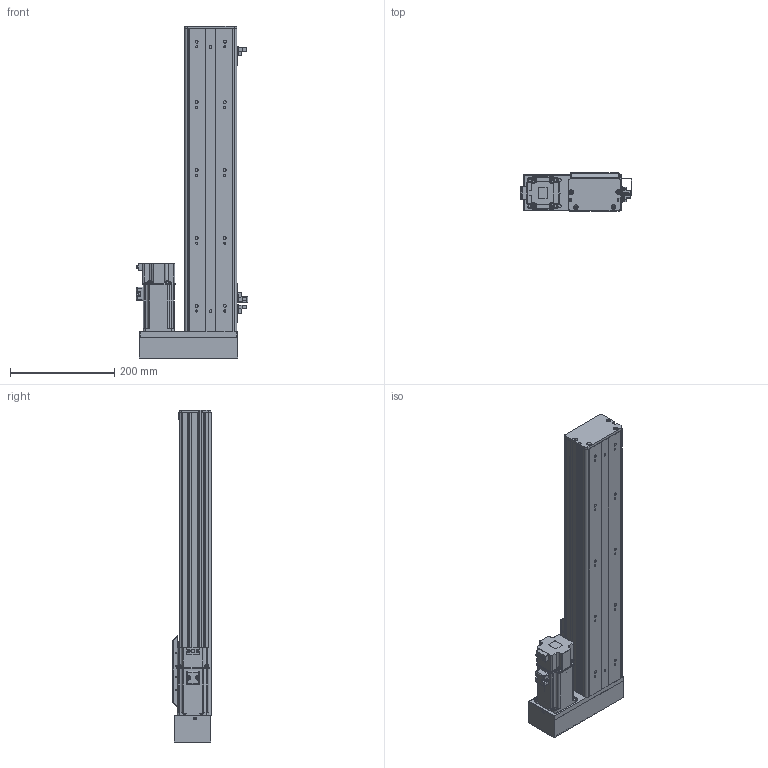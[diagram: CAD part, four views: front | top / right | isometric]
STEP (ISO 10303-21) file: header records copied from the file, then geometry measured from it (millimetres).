
FILE_DESCRIPTION (( 'STEP AP203' ), '1' );
FILE_NAME ('BOSW100-400-1610-1P-RM-M400W-O-S3（方程式2016）.step', '2020-10-10T07:16:52', ( '' ), ( '' ), 'SwSTEP 2.0', 'SolidWorks 2016', '' );
FILE_SCHEMA (( 'CONFIG_CONTROL_DESIGN' ));
Length unit declared in the file: millimetre
Products named in the file (14): BOSW-100-綴裔啣; S400W(SMA-L040); BOSW-100-1P-DM-400諦誧芞; 俋境嫖覜嘐隅啣; 放大器内置U型微型光电传感器PM-L65; 新结构AIMSW-100-1P-宽&高轨共用-滑动座上组件; BOSW100-400-1610-1P-RM-M400W-O-S3（方程式2016）; boS-100-LM&RM-三菱M400W马达板-宽轨; BOSW&TW-100-俋离覜茼え; BOSW&TW-100-詩湍揤沭(陔賦凳); AIMS(W)-100-LM&RM-肮祭謫欶; BOSW-100-1P-DM-宽轨-钢带-400客户图纸; BOSW-100-1P-DM-宽轨-侧板-400客户图纸; BOSW&TW-100-1P-賑雄釱欶
Assembly tree (19 placements, depth 2):
  BOSW100-400-1610-1P-RM-M400W-O-S3（方程式2016）
    BOSW-100-1P-DM-400諦誧芞
    BOSW-100-綴裔啣
    新结构AIMSW-100-1P-宽&高轨共用-滑动座上组件
    S400W(SMA-L040)
    BOSW&TW-100-詩湍揤沭(陔賦凳)  x2
    BOSW&TW-100-1P-賑雄釱欶
    BOSW-100-1P-DM-宽轨-侧板-400客户图纸  x2
    BOSW-100-1P-DM-宽轨-钢带-400客户图纸
    AIMS(W)-100-LM&RM-肮祭謫欶
    boS-100-LM&RM-三菱M400W马达板-宽轨
    俋境嫖覜嘐隅啣  x3
    放大器内置U型微型光电传感器PM-L65  x3
    BOSW&TW-100-俋离覜茼え
Bounding box: 213.4 x 75 x 636 mm (x, y, z)
Volume: 1539929.8 mm3; surface area: 745562.6 mm2
Topology: 19 solids, 20 shells, 2507 faces, 6609 edges, 4215 vertices
Faces by surface type: plane 1239, cylinder 782, bspline 271, cone 167, torus 36, sphere 12
Entity records: 68576 total; most frequent: CARTESIAN_POINT 20626, ORIENTED_EDGE 9758, DIRECTION 9435, EDGE_CURVE 4879, AXIS2_PLACEMENT_3D 3335, VERTEX_POINT 3117, LINE 2765, VECTOR 2765
